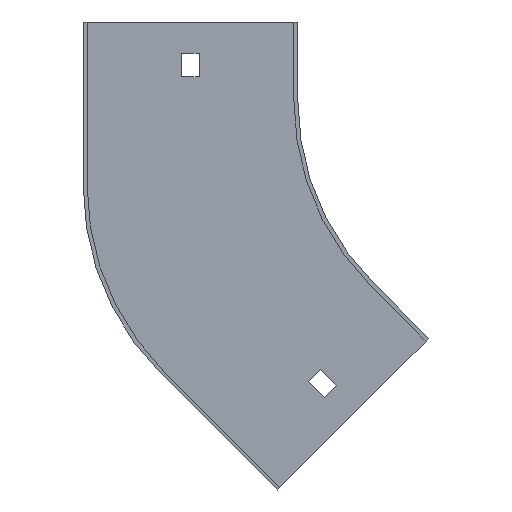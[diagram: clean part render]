
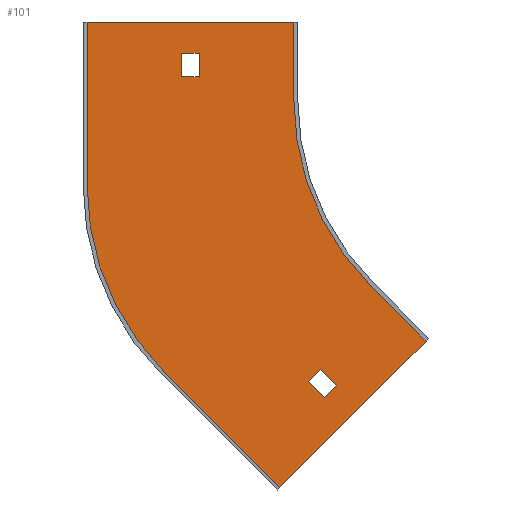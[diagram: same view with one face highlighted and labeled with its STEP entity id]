
A CAD part, front view. The second image highlights one B-rep face of the part: STEP entity #101.
In plain terms, the highlighted planar face has unit normal (0, -1, 0).
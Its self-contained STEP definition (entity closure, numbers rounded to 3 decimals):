
#6 = VECTOR ( 'NONE', #25, 1000. ) ;
#18 = EDGE_CURVE ( 'NONE', #158, #299, #267, .T. ) ;
#23 = LINE ( 'NONE', #86, #772 ) ;
#25 = DIRECTION ( 'NONE',  ( -0.707, 0., -0.707 ) ) ;
#30 = ORIENTED_EDGE ( 'NONE', *, *, #579, .T. ) ;
#32 = VECTOR ( 'NONE', #313, 1000. ) ;
#35 = LINE ( 'NONE', #725, #297 ) ;
#36 = CARTESIAN_POINT ( 'NONE',  ( 6.364, -1.5, -6.364 ) ) ;
#42 = EDGE_CURVE ( 'NONE', #601, #426, #806, .T. ) ;
#44 = VECTOR ( 'NONE', #500, 1000. ) ;
#47 = DIRECTION ( 'NONE',  ( 0., -1., 0. ) ) ;
#58 = VECTOR ( 'NONE', #66, 1000. ) ;
#64 = CARTESIAN_POINT ( 'NONE',  ( 0., -1.5, 0. ) ) ;
#66 = DIRECTION ( 'NONE',  ( 1., 0., 0. ) ) ;
#67 = DIRECTION ( 'NONE',  ( 0., 0., -1. ) ) ;
#70 = ORIENTED_EDGE ( 'NONE', *, *, #42, .F. ) ;
#76 = CARTESIAN_POINT ( 'NONE',  ( -142.75, -1.5, 18. ) ) ;
#78 = VECTOR ( 'NONE', #239, 1000. ) ;
#83 = EDGE_CURVE ( 'NONE', #426, #646, #519, .T. ) ;
#86 = CARTESIAN_POINT ( 'NONE',  ( -100., -1.5, 30. ) ) ;
#100 = ORIENTED_EDGE ( 'NONE', *, *, #83, .F. ) ;
#101 = ADVANCED_FACE ( 'NONE', ( #726, #131, #794 ), #662, .T. ) ;
#105 = ORIENTED_EDGE ( 'NONE', *, *, #724, .F. ) ;
#109 = CARTESIAN_POINT ( 'NONE',  ( -100., -1.5, 0. ) ) ;
#112 = DIRECTION ( 'NONE',  ( 0., 0., -1. ) ) ;
#120 = VECTOR ( 'NONE', #112, 1000. ) ;
#127 = VERTEX_POINT ( 'NONE', #853 ) ;
#131 = FACE_OUTER_BOUND ( 'NONE', #413, .T. ) ;
#133 = LINE ( 'NONE', #428, #58 ) ;
#135 = LINE ( 'NONE', #203, #178 ) ;
#157 = DIRECTION ( 'NONE',  ( -1., 0., 0. ) ) ;
#158 = VERTEX_POINT ( 'NONE', #109 ) ;
#166 = LINE ( 'NONE', #560, #402 ) ;
#175 = EDGE_CURVE ( 'NONE', #658, #405, #135, .T. ) ;
#178 = VECTOR ( 'NONE', #807, 1000. ) ;
#197 = VERTEX_POINT ( 'NONE', #349 ) ;
#201 = CARTESIAN_POINT ( 'NONE',  ( -94.576, -1.5, -107.303 ) ) ;
#202 = CARTESIAN_POINT ( 'NONE',  ( -79., -1.5, -32.723 ) ) ;
#203 = CARTESIAN_POINT ( 'NONE',  ( -100.939, -1.5, -100.939 ) ) ;
#210 = VERTEX_POINT ( 'NONE', #490 ) ;
#212 = CARTESIAN_POINT ( 'NONE',  ( -142.75, -1.5, 0. ) ) ;
#217 = DIRECTION ( 'NONE',  ( 0., 0., -1. ) ) ;
#219 = DIRECTION ( 'NONE',  ( 0., 0., -1. ) ) ;
#220 = ORIENTED_EDGE ( 'NONE', *, *, #175, .F. ) ;
#228 = CARTESIAN_POINT ( 'NONE',  ( -96.343, -1.5, -96.343 ) ) ;
#238 = ORIENTED_EDGE ( 'NONE', *, *, #821, .F. ) ;
#239 = DIRECTION ( 'NONE',  ( -0.707, 0., -0.707 ) ) ;
#245 = LINE ( 'NONE', #707, #32 ) ;
#246 = EDGE_CURVE ( 'NONE', #299, #249, #433, .T. ) ;
#249 = VERTEX_POINT ( 'NONE', #619 ) ;
#251 = CARTESIAN_POINT ( 'NONE',  ( -89.979, -1.5, -102.707 ) ) ;
#265 = LINE ( 'NONE', #473, #598 ) ;
#267 = CIRCLE ( 'NONE', #739, 100. ) ;
#274 = EDGE_CURVE ( 'NONE', #770, #601, #35, .T. ) ;
#283 = CARTESIAN_POINT ( 'NONE',  ( -149.711, -1.5, -103.434 ) ) ;
#297 = VECTOR ( 'NONE', #706, 1000. ) ;
#298 = AXIS2_PLACEMENT_3D ( 'NONE', #202, #437, #67 ) ;
#299 = VERTEX_POINT ( 'NONE', #711 ) ;
#300 = LINE ( 'NONE', #228, #44 ) ;
#302 = CARTESIAN_POINT ( 'NONE',  ( -88.212, -1.5, -113.667 ) ) ;
#313 = DIRECTION ( 'NONE',  ( 1., 0., 0. ) ) ;
#348 = VERTEX_POINT ( 'NONE', #636 ) ;
#349 = CARTESIAN_POINT ( 'NONE',  ( -83.615, -1.5, -109.071 ) ) ;
#364 = ORIENTED_EDGE ( 'NONE', *, *, #785, .F. ) ;
#366 = LINE ( 'NONE', #509, #6 ) ;
#399 = DIRECTION ( 'NONE',  ( 0., 0., 1. ) ) ;
#402 = VECTOR ( 'NONE', #157, 1000. ) ;
#405 = VERTEX_POINT ( 'NONE', #302 ) ;
#409 = DIRECTION ( 'NONE',  ( 0., -1., 0. ) ) ;
#413 = EDGE_LOOP ( 'NONE', ( #729, #100, #70, #835, #539, #489, #436, #364 ) ) ;
#423 = ORIENTED_EDGE ( 'NONE', *, *, #510, .T. ) ;
#426 = VERTEX_POINT ( 'NONE', #792 ) ;
#427 = CARTESIAN_POINT ( 'NONE',  ( 0., -1.5, 0. ) ) ;
#428 = CARTESIAN_POINT ( 'NONE',  ( 0., -1.5, 18. ) ) ;
#433 = LINE ( 'NONE', #698, #697 ) ;
#436 = ORIENTED_EDGE ( 'NONE', *, *, #18, .F. ) ;
#437 = DIRECTION ( 'NONE',  ( 0., 1., 0. ) ) ;
#473 = CARTESIAN_POINT ( 'NONE',  ( 12.728, -1.5, -12.728 ) ) ;
#476 = ORIENTED_EDGE ( 'NONE', *, *, #661, .T. ) ;
#489 = ORIENTED_EDGE ( 'NONE', *, *, #246, .F. ) ;
#490 = CARTESIAN_POINT ( 'NONE',  ( -136.25, -1.5, 9. ) ) ;
#499 = ORIENTED_EDGE ( 'NONE', *, *, #695, .T. ) ;
#500 = DIRECTION ( 'NONE',  ( -0.707, 0., 0.707 ) ) ;
#509 = CARTESIAN_POINT ( 'NONE',  ( -48.437, -1.5, -90.863 ) ) ;
#510 = EDGE_CURVE ( 'NONE', #611, #210, #781, .T. ) ;
#519 = LINE ( 'NONE', #527, #557 ) ;
#520 = VERTEX_POINT ( 'NONE', #251 ) ;
#527 = CARTESIAN_POINT ( 'NONE',  ( -179., -1.5, -32.723 ) ) ;
#528 = VECTOR ( 'NONE', #738, 1000. ) ;
#539 = ORIENTED_EDGE ( 'NONE', *, *, #710, .F. ) ;
#540 = LINE ( 'NONE', #212, #528 ) ;
#557 = VECTOR ( 'NONE', #399, 1000. ) ;
#560 = CARTESIAN_POINT ( 'NONE',  ( 0., -1.5, 9. ) ) ;
#574 = CARTESIAN_POINT ( 'NONE',  ( -136.25, -1.5, 0. ) ) ;
#579 = EDGE_CURVE ( 'NONE', #127, #615, #540, .T. ) ;
#588 = DIRECTION ( 'NONE',  ( 0., 0., -1. ) ) ;
#598 = VECTOR ( 'NONE', #604, 1000. ) ;
#601 = VERTEX_POINT ( 'NONE', #283 ) ;
#604 = DIRECTION ( 'NONE',  ( 0.707, 0., 0.707 ) ) ;
#605 = EDGE_CURVE ( 'NONE', #405, #197, #265, .T. ) ;
#611 = VERTEX_POINT ( 'NONE', #861 ) ;
#615 = VERTEX_POINT ( 'NONE', #76 ) ;
#619 = CARTESIAN_POINT ( 'NONE',  ( -49.497, -1.5, -91.924 ) ) ;
#625 = AXIS2_PLACEMENT_3D ( 'NONE', #64, #47, #588 ) ;
#627 = CARTESIAN_POINT ( 'NONE',  ( -105.359, -1.5, -147.785 ) ) ;
#636 = CARTESIAN_POINT ( 'NONE',  ( -100., -1.5, 30. ) ) ;
#646 = VERTEX_POINT ( 'NONE', #730 ) ;
#658 = VERTEX_POINT ( 'NONE', #201 ) ;
#661 = EDGE_CURVE ( 'NONE', #615, #611, #133, .T. ) ;
#662 = PLANE ( 'NONE',  #625 ) ;
#681 = EDGE_LOOP ( 'NONE', ( #105, #784, #220, #238 ) ) ;
#686 = EDGE_LOOP ( 'NONE', ( #476, #423, #499, #30 ) ) ;
#695 = EDGE_CURVE ( 'NONE', #210, #127, #166, .T. ) ;
#697 = VECTOR ( 'NONE', #815, 1000. ) ;
#698 = CARTESIAN_POINT ( 'NONE',  ( -70.711, -1.5, -70.711 ) ) ;
#706 = DIRECTION ( 'NONE',  ( -0.707, 0., 0.707 ) ) ;
#707 = CARTESIAN_POINT ( 'NONE',  ( -180.5, -1.5, 30. ) ) ;
#710 = EDGE_CURVE ( 'NONE', #249, #770, #366, .T. ) ;
#711 = CARTESIAN_POINT ( 'NONE',  ( -70.711, -1.5, -70.711 ) ) ;
#724 = EDGE_CURVE ( 'NONE', #197, #520, #300, .T. ) ;
#725 = CARTESIAN_POINT ( 'NONE',  ( -105.359, -1.5, -147.785 ) ) ;
#726 = FACE_BOUND ( 'NONE', #681, .T. ) ;
#729 = ORIENTED_EDGE ( 'NONE', *, *, #809, .F. ) ;
#730 = CARTESIAN_POINT ( 'NONE',  ( -179., -1.5, 30. ) ) ;
#738 = DIRECTION ( 'NONE',  ( 0., 0., 1. ) ) ;
#739 = AXIS2_PLACEMENT_3D ( 'NONE', #427, #409, #219 ) ;
#770 = VERTEX_POINT ( 'NONE', #627 ) ;
#772 = VECTOR ( 'NONE', #217, 1000. ) ;
#781 = LINE ( 'NONE', #574, #120 ) ;
#784 = ORIENTED_EDGE ( 'NONE', *, *, #605, .F. ) ;
#785 = EDGE_CURVE ( 'NONE', #348, #158, #23, .T. ) ;
#792 = CARTESIAN_POINT ( 'NONE',  ( -179., -1.5, -32.723 ) ) ;
#794 = FACE_BOUND ( 'NONE', #686, .T. ) ;
#806 = CIRCLE ( 'NONE', #298, 100. ) ;
#807 = DIRECTION ( 'NONE',  ( 0.707, 0., -0.707 ) ) ;
#809 = EDGE_CURVE ( 'NONE', #646, #348, #245, .T. ) ;
#815 = DIRECTION ( 'NONE',  ( 0.707, 0., -0.707 ) ) ;
#821 = EDGE_CURVE ( 'NONE', #520, #658, #834, .T. ) ;
#834 = LINE ( 'NONE', #36, #78 ) ;
#835 = ORIENTED_EDGE ( 'NONE', *, *, #274, .F. ) ;
#853 = CARTESIAN_POINT ( 'NONE',  ( -142.75, -1.5, 9. ) ) ;
#861 = CARTESIAN_POINT ( 'NONE',  ( -136.25, -1.5, 18. ) ) ;
